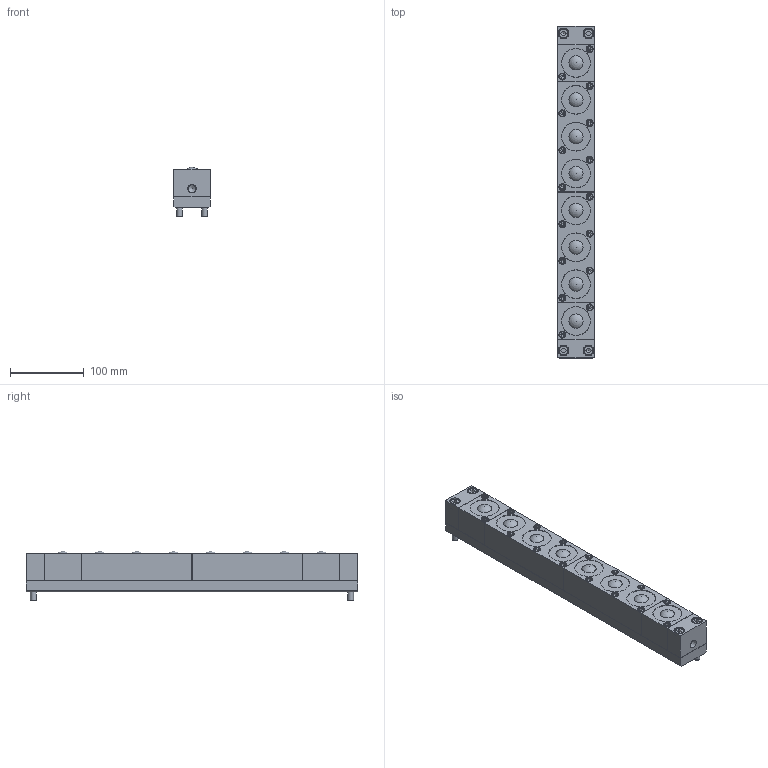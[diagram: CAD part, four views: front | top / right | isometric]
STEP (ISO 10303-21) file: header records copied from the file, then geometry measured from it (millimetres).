
FILE_DESCRIPTION(/* description */ (''),/* implementation_level */ '2;1');
FILE_NAME(/* name */ 'Z:\34-Tei\01-web 3Dデータ\41-ISR-50S型\ISR-50S-450-A.stp',/* time_stamp */ '2015-01-16T09:35:36+09:00',/* author */ ('yamaki'),/* organization */ (''),/* preprocessor_version */ 'ST-DEVELOPER v15.6',/* originating_system */ 'Autodesk Inventor 2015',/* authorisation */ '');
FILE_SCHEMA (('CONFIG_CONTROL_DESIGN','AUTOMOTIVE_DESIGN { 1 0 10303 214 3 1 1 }'));
Length unit declared in the file: millimetre
Products named in the file (6): 4200AT-01-450; 4200AT-02; 六角穴付きボルト-M8x55; 4200AT-00; 4200AT-03; ISR-50S
Bounding box: 49.5 x 450 x 67 mm (x, y, z)
Volume: 1096402.8 mm3; surface area: 259519.9 mm2
Topology: 15 solids, 15 shells, 458 faces, 955 edges, 610 vertices
Faces by surface type: plane 305, cylinder 85, cone 38, torus 22, sphere 8
Full cylindrical faces by diameter (mm): 8 x2, 8.5 x16, 9 x2, 9.5 x16, 10.5 x1, 13 x4, 14.5 x4, 31.7 x8, 38.5 x8, 39 x8, 42 x16
Entity records: 5990 total; most frequent: CARTESIAN_POINT 1075, DIRECTION 960, ORIENTED_EDGE 834, EDGE_CURVE 417, AXIS2_PLACEMENT_3D 346, EDGE_LOOP 336, VERTEX_POINT 299, LINE 268
